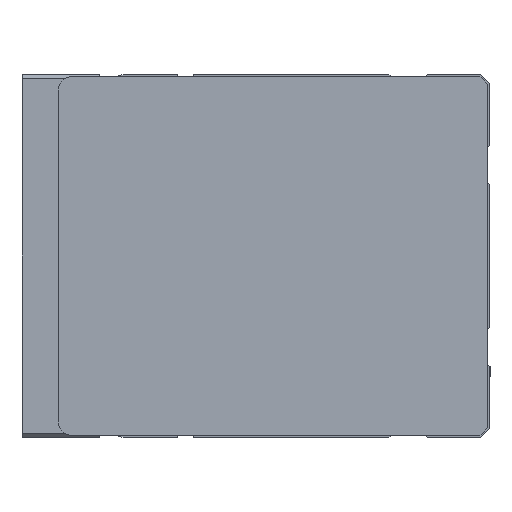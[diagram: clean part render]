
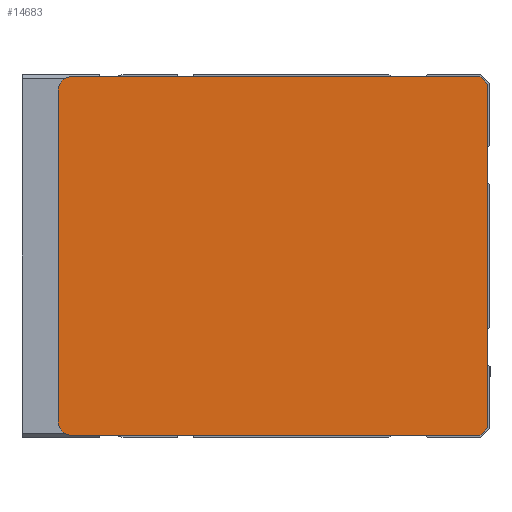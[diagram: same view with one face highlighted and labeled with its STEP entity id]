
A CAD part, left-side view. The second image highlights one B-rep face of the part: STEP entity #14683.
In plain terms, the highlighted planar face has unit normal (-1, 0, 0) as drawn and (0, 0, -1) by its records, which use the part's own axes.
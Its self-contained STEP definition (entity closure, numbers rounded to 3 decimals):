
#1281=CIRCLE('',#15610,3.);
#1282=CIRCLE('',#15613,3.);
#1682=FACE_OUTER_BOUND('',#2546,.T.);
#2546=EDGE_LOOP('',(#9994,#9995,#9996,#9997,#9998,#9999,#10000,#10001));
#3658=LINE('',#20879,#4956);
#3661=LINE('',#20884,#4959);
#3663=LINE('',#20888,#4961);
#3665=LINE('',#20892,#4963);
#3667=LINE('',#20896,#4965);
#3670=LINE('',#20904,#4968);
#4956=VECTOR('',#17001,89.793);
#4959=VECTOR('',#17006,2.414);
#4961=VECTOR('',#17010,75.586);
#4963=VECTOR('',#17014,2.414);
#4965=VECTOR('',#17018,89.793);
#4968=VECTOR('',#17027,73.);
#6242=VERTEX_POINT('',#20877);
#6243=VERTEX_POINT('',#20878);
#6244=VERTEX_POINT('',#20883);
#6245=VERTEX_POINT('',#20887);
#6246=VERTEX_POINT('',#20891);
#6247=VERTEX_POINT('',#20895);
#6248=VERTEX_POINT('',#20899);
#6249=VERTEX_POINT('',#20903);
#7729=EDGE_CURVE('',#6242,#6243,#3658,.T.);
#7732=EDGE_CURVE('',#6243,#6244,#3661,.T.);
#7734=EDGE_CURVE('',#6244,#6245,#3663,.T.);
#7736=EDGE_CURVE('',#6245,#6246,#3665,.T.);
#7738=EDGE_CURVE('',#6246,#6247,#3667,.T.);
#7740=EDGE_CURVE('',#6247,#6248,#1281,.T.);
#7742=EDGE_CURVE('',#6248,#6249,#3670,.T.);
#7744=EDGE_CURVE('',#6249,#6242,#1282,.T.);
#9994=ORIENTED_EDGE('',*,*,#7738,.F.);
#9995=ORIENTED_EDGE('',*,*,#7736,.F.);
#9996=ORIENTED_EDGE('',*,*,#7734,.F.);
#9997=ORIENTED_EDGE('',*,*,#7732,.F.);
#9998=ORIENTED_EDGE('',*,*,#7729,.F.);
#9999=ORIENTED_EDGE('',*,*,#7744,.F.);
#10000=ORIENTED_EDGE('',*,*,#7742,.F.);
#10001=ORIENTED_EDGE('',*,*,#7740,.F.);
#14172=PLANE('',#15623);
#14683=ADVANCED_FACE('',(#1682),#14172,.T.);
#15610=AXIS2_PLACEMENT_3D('',#20900,#17022,#17023);
#15613=AXIS2_PLACEMENT_3D('',#20907,#17031,#17032);
#15623=AXIS2_PLACEMENT_3D('',#20933,#17061,#17062);
#17001=DIRECTION('',(0.,-1.,0.));
#17006=DIRECTION('',(0.707,-0.707,0.));
#17010=DIRECTION('',(1.,0.,0.));
#17014=DIRECTION('',(0.707,0.707,0.));
#17018=DIRECTION('',(0.,1.,0.));
#17022=DIRECTION('center_axis',(0.,0.,
1.));
#17023=DIRECTION('ref_axis',(1.,0.,0.));
#17027=DIRECTION('',(-1.,0.,0.));
#17031=DIRECTION('center_axis',(0.,0.,
1.));
#17032=DIRECTION('ref_axis',(0.,1.,0.));
#17061=DIRECTION('center_axis',(0.,0.,
-1.));
#17062=DIRECTION('ref_axis',(-1.,0.,0.));
#20877=CARTESIAN_POINT('',(-78.5,92.,-1438.));
#20878=CARTESIAN_POINT('',(-78.5,2.207,-1438.));
#20879=CARTESIAN_POINT('',(-78.5,92.,-1438.));
#20883=CARTESIAN_POINT('',(-76.793,0.5,-1438.));
#20884=CARTESIAN_POINT('',(-78.5,2.207,-1438.));
#20887=CARTESIAN_POINT('',(-1.207,0.5,-1438.));
#20888=CARTESIAN_POINT('',(-76.793,0.5,-1438.));
#20891=CARTESIAN_POINT('',(0.5,2.207,-1438.));
#20892=CARTESIAN_POINT('',(-1.207,0.5,-1438.));
#20895=CARTESIAN_POINT('',(0.5,92.,-1438.));
#20896=CARTESIAN_POINT('',(0.5,2.207,-1438.));
#20899=CARTESIAN_POINT('',(-2.5,95.,-1438.));
#20900=CARTESIAN_POINT('Origin',(-2.5,92.,-1438.));
#20903=CARTESIAN_POINT('',(-75.5,95.,-1438.));
#20904=CARTESIAN_POINT('',(-2.5,95.,-1438.));
#20907=CARTESIAN_POINT('Origin',(-75.5,92.,-1438.));
#20933=CARTESIAN_POINT('Origin',(-39.,44.214,-1438.));
